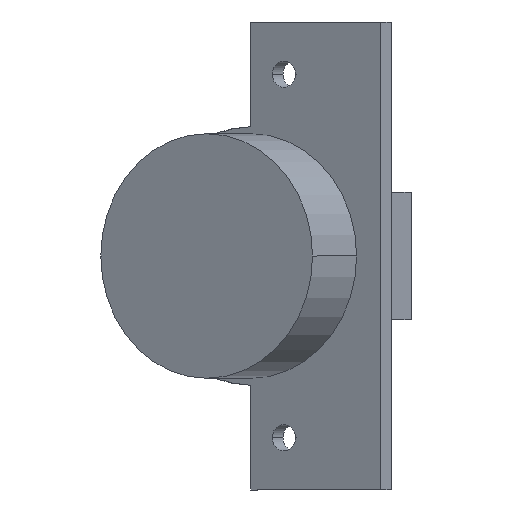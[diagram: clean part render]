
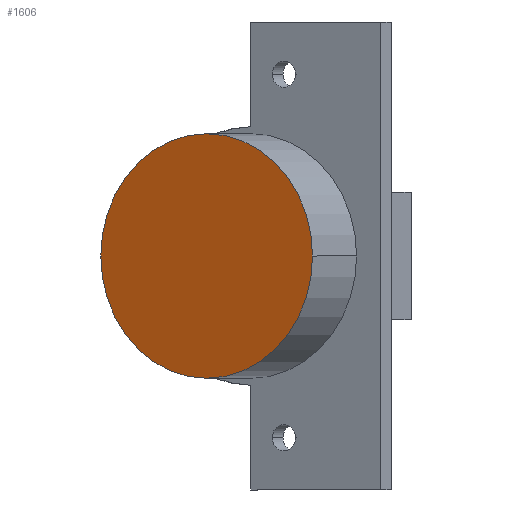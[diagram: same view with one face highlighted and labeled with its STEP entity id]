
A CAD part, front view. The second image highlights one B-rep face of the part: STEP entity #1606.
In plain terms, the highlighted planar face has unit normal (-0.5, -0.866, 0).
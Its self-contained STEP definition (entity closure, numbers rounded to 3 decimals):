
#52 = VERTEX_POINT ( 'NONE', #140 ) ;
#66 = VERTEX_POINT ( 'NONE', #154 ) ;
#140 = CARTESIAN_POINT ( 'NONE',  ( 29.205, -19.662, 0. ) ) ;
#154 = CARTESIAN_POINT ( 'NONE',  ( -1.105, -2.162, 0. ) ) ;
#225 = CARTESIAN_POINT ( 'NONE',  ( 14.05, -10.912, 0. ) ) ;
#227 = DIRECTION ( 'NONE',  ( -0.5, -0.866, 0. ) ) ;
#228 = DIRECTION ( 'NONE',  ( 0.866, -0.5, 0. ) ) ;
#334 = CARTESIAN_POINT ( 'NONE',  ( 14.05, -10.912, 0. ) ) ;
#335 = DIRECTION ( 'NONE',  ( -0.5, -0.866, 0. ) ) ;
#336 = DIRECTION ( 'NONE',  ( 0.866, -0.5, 0. ) ) ;
#436 = EDGE_CURVE ( 'NONE', #52, #66, #1565, .T. ) ;
#485 = EDGE_CURVE ( 'NONE', #66, #52, #689, .T. ) ;
#573 = AXIS2_PLACEMENT_3D ( 'NONE', #225, #227, #228 ) ;
#578 = AXIS2_PLACEMENT_3D ( 'NONE', #334, #335, #336 ) ;
#591 = AXIS2_PLACEMENT_3D ( 'NONE', #964, #970, #971 ) ;
#689 = CIRCLE ( 'NONE', #578, 17.5 ) ;
#840 = FACE_OUTER_BOUND ( 'NONE', #1423, .T. ) ;
#959 = PLANE ( 'NONE',  #591 ) ;
#964 = CARTESIAN_POINT ( 'NONE',  ( 14.05, -10.912, 0. ) ) ;
#970 = DIRECTION ( 'NONE',  ( -0.5, -0.866, 0. ) ) ;
#971 = DIRECTION ( 'NONE',  ( 0.866, -0.5, 0. ) ) ;
#1296 = ORIENTED_EDGE ( 'NONE', *, *, #436, .T. ) ;
#1297 = ORIENTED_EDGE ( 'NONE', *, *, #485, .T. ) ;
#1423 = EDGE_LOOP ( 'NONE', ( #1297, #1296 ) ) ;
#1565 = CIRCLE ( 'NONE', #573, 17.5 ) ;
#1606 = ADVANCED_FACE ( 'NONE', ( #840 ), #959, .T. ) ;
